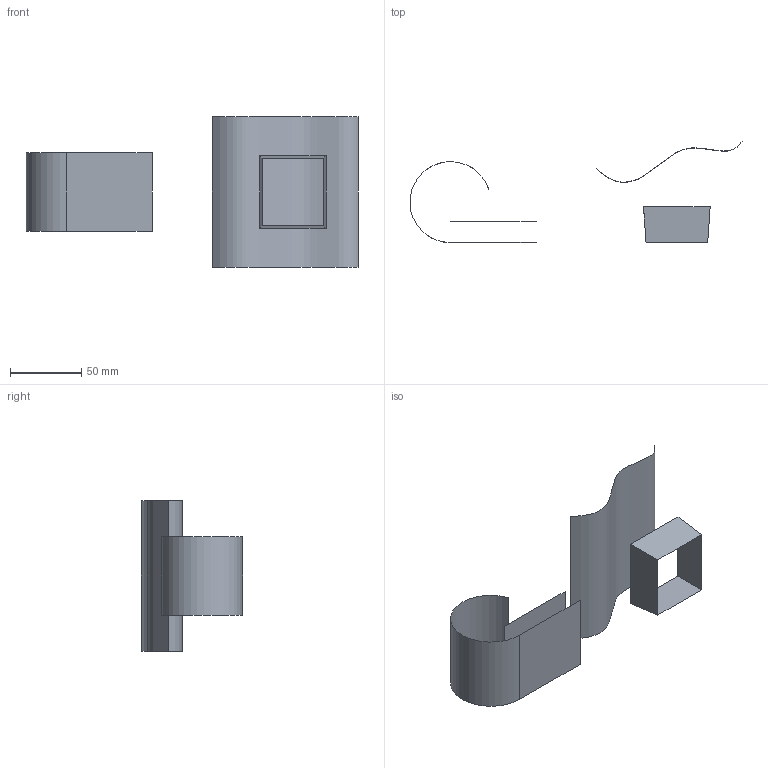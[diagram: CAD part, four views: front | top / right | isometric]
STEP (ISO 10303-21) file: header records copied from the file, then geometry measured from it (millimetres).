
FILE_DESCRIPTION (( 'STEP AP203' ), '1' );
FILE_NAME ('18.1.STEP', '2025-10-26T19:24:06', ( '' ), ( '' ), 'SwSTEP 2.0', 'SolidWorks 2025', '' );
FILE_SCHEMA (( 'CONFIG_CONTROL_DESIGN' ));
Length unit declared in the file: millimetre
Products named in the file (1): 18.1
Bounding box: 232.39 x 70.71 x 105 mm (x, y, z)
Surface area: 30110.7 mm2 (no closed solid volume)
Topology: 0 solids, 4 shells, 8 faces, 27 edges, 22 vertices
Faces by surface type: plane 6, cylinder 1, bspline 1
Entity records: 375 total; most frequent: CARTESIAN_POINT 75, DIRECTION 43, ORIENTED_EDGE 32, EDGE_CURVE 27, VECTOR 23, LINE 23, VERTEX_POINT 22, AXIS2_PLACEMENT_3D 10
